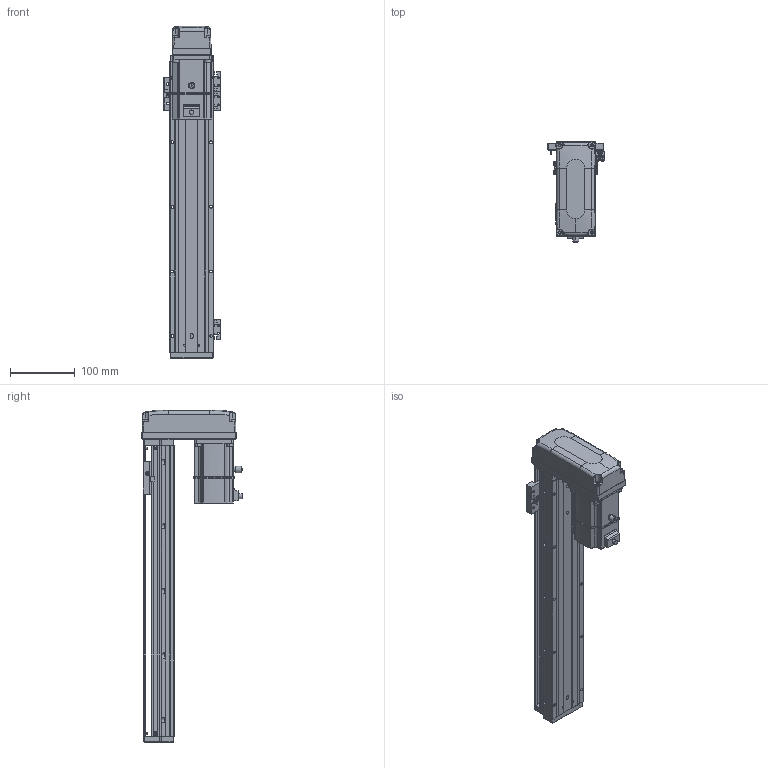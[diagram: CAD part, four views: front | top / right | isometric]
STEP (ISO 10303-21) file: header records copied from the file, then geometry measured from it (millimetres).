
FILE_DESCRIPTION (( 'STEP AP203' ), '1' );
FILE_NAME ('KTHA60-350-BM-M20-C4L.step', '2022-12-16T01:35:08', ( '微软用户' ), ( '微软中国' ), 'SwSTEP 2.0', 'SolidWorks 2020', '' );
FILE_SCHEMA (( 'CONFIG_CONTROL_DESIGN' ));
Length unit declared in the file: millimetre
Products named in the file (17): GBT 70.1-M3℅6; KTHA60-004; CTHA60-016; KTHA60-005; KTHA60-002; GB¨uT 70.2-M3¡Á5_M3¡Á6; CTHA60-017; BTH80-026; GBT 70.3-M3℅6; CTHA60-021; CTHA60-006-2_CTHA60-006-2; EE_SX911P_R; GBT 70.1-M4×16; _X2_4E0983F1_X0_200W_1; GBT77-2000M3-3; KTHA60-350-BM-M20-C4L; KTHA60-001_450
Assembly tree (51 placements, depth 2):
  KTHA60-350-BM-M20-C4L
    KTHA60-001_450
    KTHA60-004
    KTHA60-005
    GB¨uT 70.2-M3¡Á5_M3¡Á6  x6
    GBT 70.3-M3℅6  x4
    EE_SX911P_R  x3
    CTHA60-017  x3
    CTHA60-021  x2
    GBT 70.1-M4×16  x8
    GBT77-2000M3-3  x6
    GBT 70.1-M3℅6  x10
    CTHA60-016  x2
    KTHA60-002
    BTH80-026
    CTHA60-006-2_CTHA60-006-2
    _X2_4E0983F1_X0_200W_1
Bounding box: 87.72 x 155.2 x 514 mm (x, y, z)
Volume: 1250362.2 mm3; surface area: 330138.3 mm2
Topology: 54 solids, 54 shells, 2408 faces, 5717 edges, 3514 vertices
Faces by surface type: plane 1273, cylinder 638, cone 280, bspline 109, torus 92, sphere 16
Entity records: 44240 total; most frequent: CARTESIAN_POINT 10370, ORIENTED_EDGE 6482, DIRECTION 6478, EDGE_CURVE 3241, AXIS2_PLACEMENT_3D 2241, VERTEX_POINT 2023, LINE 1996, VECTOR 1996
